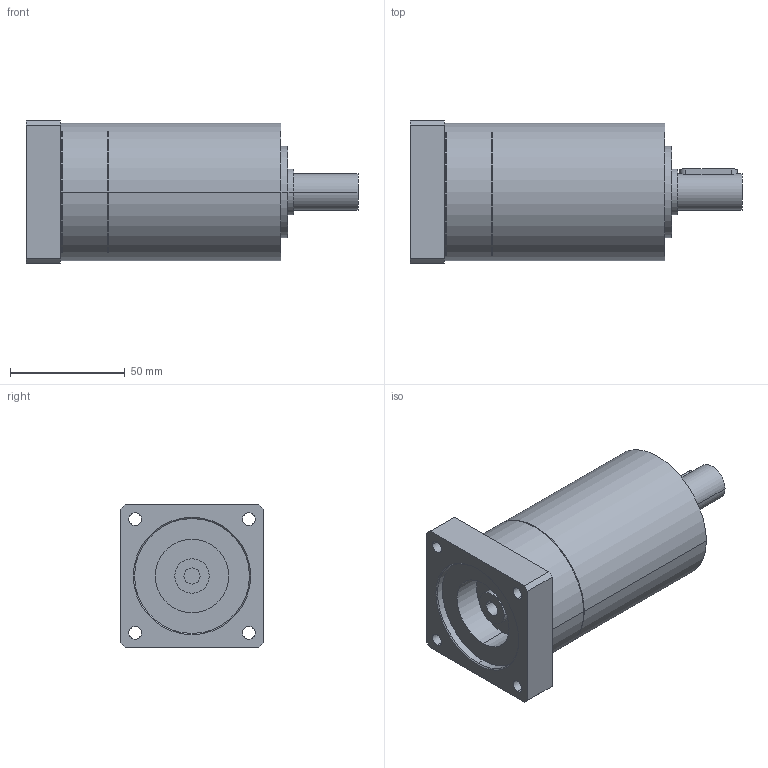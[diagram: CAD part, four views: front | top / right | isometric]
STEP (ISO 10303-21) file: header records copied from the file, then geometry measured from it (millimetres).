
FILE_DESCRIPTION(('CoCreate Modeling STEP Export'),'2;1');
FILE_NAME('GPR75_ig-9-12-16-20-24-30-36_16_B14_7_P23.stp','2014-08-25T16:05:33',(''),(''),'CoCreate Modeling STEP processor for AP214 (Solid Model)','CoCreate Modeling 16.00C 25-Feb-2009 (C) Parametric Technology GmbH','');
FILE_SCHEMA(('AUTOMOTIVE_DESIGN { 1 0 10303 214 1 1 1 1 }'));
Length unit declared in the file: millimetre
Products named in the file (2): GPR75_ig-9-12-16-20-24-30-36_16_B14_7_P23
Assembly tree (1 placements, depth 2):
  GPR75_ig-9-12-16-20-24-30-36_16_B14_7_P23
    GPR75_ig-9-12-16-20-24-30-36_16_B14_7_P23
Bounding box: 144.4 x 62 x 62 mm (x, y, z)
Volume: 320582.9 mm3; surface area: 35725.3 mm2
Topology: 1 solids, 1 shells, 75 faces, 197 edges, 137 vertices
Faces by surface type: cylinder 44, plane 23, cone 8
Entity records: 2039 total; most frequent: ORIENTED_EDGE 390, CARTESIAN_POINT 375, DIRECTION 278, EDGE_CURVE 195, VERTEX_POINT 137, AXIS2_PLACEMENT_3D 104, EDGE_LOOP 98, FACE_OUTER_BOUND 75
